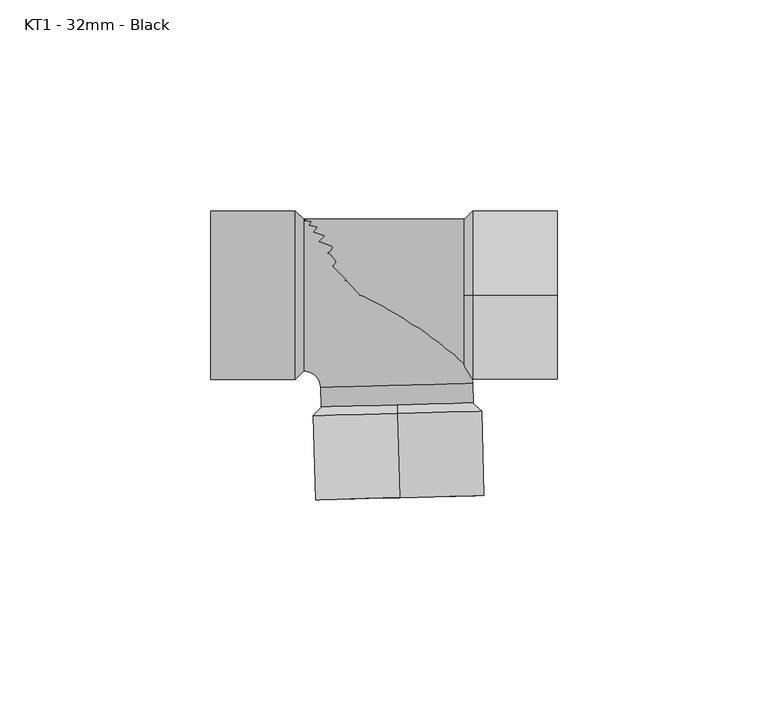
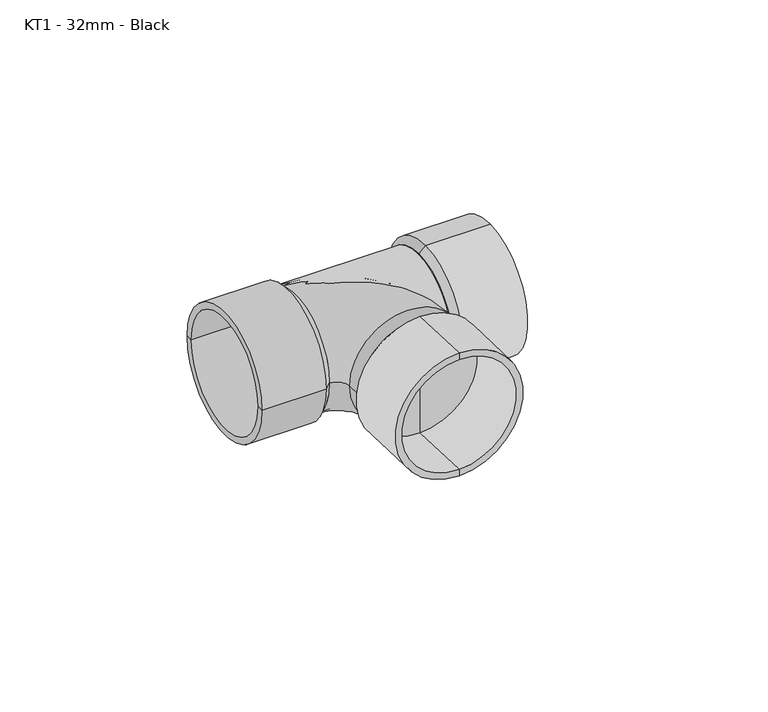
"""IFC4 building model written with IfcOpenShell, lengths in millimetres: pipe fitting geometry, MarleyPlumbingAndDrainage_PipeFitting_EqualBranchTee88.5 : KT1 - 32mm - Black."""

from ifc_helpers import new_model, si_unit, point, frame, origin, place, context, project, spatial, polyline, circle_curve, ellipse_curve, trimmed, source, transform, mapped, element, save
from ifc_brep_helpers import plane_surface, cylinder_surface, revolved_surface, advanced_brep


def kt1_32mm_black_348191cf(model_context):
    return source(origin(), model_context, "Body", "AdvancedBrep", [
        advanced_brep(
        [(38.5685488, 0.0, 18.0), (38.5685488, 0.0, -18.0), (38.5685488, 0.0, -20.0), (38.5685488, 0.0, 20.0), (18.5685488, 0.0, 18.0), (18.5685488, 0.0, -18.0), (18.5685488, 0.0, 0.0), (16.5685488, 0.0, 18.0), (16.5685488, 0.0, -18.0), (16.5685488, 0.0, 0.0), (18.5685488, 0.0, 20.0), (18.5685488, 0.0, -20.0)],
        [
            (0, 1, circle_curve(frame((38.5685488, 0.0, 0.0), z_axis=(-1.0, 0.0, 0.0), x_axis=(0.0, 0.0, -1.0)), 18.0)),
            (1, 2),
            (2, 3, circle_curve(frame((38.5685488, 0.0, 0.0), z_axis=(1.0, 0.0, 0.0), x_axis=(0.0, 0.0, -1.0)), 20.0)),
            (3, 0),
            (1, 0, circle_curve(frame((38.5685488, 0.0, 0.0), z_axis=(-1.0, 0.0, 0.0), x_axis=(0.0, 0.0, -1.0)), 18.0)),
            (3, 2, circle_curve(frame((38.5685488, 0.0, 0.0), z_axis=(1.0, 0.0, 0.0), x_axis=(0.0, 0.0, -1.0)), 20.0)),
            (4, 5, circle_curve(frame((18.5685488, 0.0, 0.0), z_axis=(-1.0, 0.0, 0.0), x_axis=(0.0, 0.0, -1.0)), 18.0)),
            (5, 1),
            (0, 4),
            (5, 4, circle_curve(frame((18.5685488, 0.0, 0.0), z_axis=(-1.0, 0.0, 0.0), x_axis=(0.0, 0.0, -1.0)), 18.0)),
            (6, 5),
            (4, 6),
            (7, 8, circle_curve(frame((16.5685488, 0.0, 0.0), z_axis=(-1.0, 0.0, 0.0), x_axis=(0.0, 0.0, -1.0)), 18.0)),
            (8, 9),
            (9, 7),
            (8, 7, circle_curve(frame((16.5685488, 0.0, 0.0), z_axis=(-1.0, 0.0, 0.0), x_axis=(0.0, 0.0, -1.0)), 18.0)),
            (10, 11, circle_curve(frame((18.5685488, 0.0, 0.0), z_axis=(-1.0, 0.0, 0.0), x_axis=(0.0, 0.0, -1.0)), 20.0)),
            (11, 8),
            (7, 10),
            (11, 10, circle_curve(frame((18.5685488, 0.0, 0.0), z_axis=(-1.0, 0.0, 0.0), x_axis=(0.0, 0.0, -1.0)), 20.0)),
            (2, 11),
            (10, 3),
        ],
        [
            plane_surface(frame((38.5685488, 0.0, 0.0), z_axis=(1.0, 0.0, 0.0), x_axis=(0.0, 0.0, -1.0))),
            revolved_surface(polyline([(38.5685488, 0.0, -18.0), (18.568548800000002, 0.0, -18.0)]), (76.5515888, 0.0, 0.0), (1.0, 0.0, 0.0)),
            plane_surface(frame((18.5685488, 0.0, 0.0), z_axis=(1.0, 0.0, 0.0), x_axis=(0.0, 0.0, -1.0))),
            plane_surface(frame((16.5685488, 0.0, 0.0), z_axis=(-1.0, 0.0, 0.0), x_axis=(0.0, 0.0, -1.0))),
            revolved_surface(polyline([(16.5685488, 0.0, -18.0), (18.5685488, 0.0, -20.0)]), (76.5515888, 0.0, 0.0), (1.0, 0.0, 0.0)),
            cylinder_surface(frame((76.5515888, 0.0, 0.0), z_axis=(1.0, 0.0, 0.0), x_axis=(0.0, 0.0, -1.0)), 20.0),
        ],
        [
            (0, [[1, 2, 3, 4]]),
            (0, [[5, -4, 6, -2]]),
            (1, [[7, 8, -1, 9]]),
            (1, [[10, -9, -5, -8]]),
            (2, [[11, -7, 12]]),
            (2, [[-12, -10, -11]]),
            (3, [[13, 14, 15]]),
            (3, [[16, -15, -14]]),
            (4, [[17, 18, -13, 19]]),
            (4, [[20, -19, -16, -18]]),
            (5, [[-3, 21, -17, 22]]),
            (5, [[-6, -22, -20, -21]]),
        ],
    ),
        advanced_brep(
        [(-43.4314512, -18.0, 0.0), (-43.4314512, 18.0, 0.0), (-43.4314512, 20.0, 0.0), (-43.4314512, -20.0, 0.0), (-23.4314512, -18.0, 0.0), (-23.4314512, 18.0, 0.0), (-23.4314512, 0.0, 0.0), (-21.4314512, -18.0, 0.0), (-21.4314512, 18.0, 0.0), (-21.4314512, 0.0, 0.0), (-23.4314512, -20.0, 0.0), (-23.4314512, 20.0, 0.0)],
        [
            (0, 1, circle_curve(frame((-43.4314512, 0.0, 0.0), z_axis=(1.0, 0.0, 0.0), x_axis=(0.0, 1.0, 0.0)), 18.0)),
            (1, 2),
            (2, 3, circle_curve(frame((-43.4314512, 0.0, 0.0), z_axis=(-1.0, 0.0, 0.0), x_axis=(0.0, 1.0, 0.0)), 20.0)),
            (3, 0),
            (1, 0, circle_curve(frame((-43.4314512, 0.0, 0.0), z_axis=(1.0, 0.0, 0.0), x_axis=(0.0, 1.0, 0.0)), 18.0)),
            (3, 2, circle_curve(frame((-43.4314512, 0.0, 0.0), z_axis=(-1.0, 0.0, 0.0), x_axis=(0.0, 1.0, 0.0)), 20.0)),
            (4, 5, circle_curve(frame((-23.4314512, 0.0, 0.0), z_axis=(1.0, 0.0, 0.0), x_axis=(0.0, 1.0, 0.0)), 18.0)),
            (5, 1),
            (0, 4),
            (5, 4, circle_curve(frame((-23.4314512, 0.0, 0.0), z_axis=(1.0, 0.0, 0.0), x_axis=(0.0, 1.0, 0.0)), 18.0)),
            (6, 5),
            (4, 6),
            (7, 8, circle_curve(frame((-21.4314512, 0.0, 0.0), z_axis=(1.0, 0.0, 0.0), x_axis=(0.0, 1.0, 0.0)), 18.0)),
            (8, 9),
            (9, 7),
            (8, 7, circle_curve(frame((-21.4314512, 0.0, 0.0), z_axis=(1.0, 0.0, 0.0), x_axis=(0.0, 1.0, 0.0)), 18.0)),
            (10, 11, circle_curve(frame((-23.4314512, 0.0, 0.0), z_axis=(1.0, 0.0, 0.0), x_axis=(0.0, 1.0, 0.0)), 20.0)),
            (11, 8),
            (7, 10),
            (11, 10, circle_curve(frame((-23.4314512, 0.0, 0.0), z_axis=(1.0, 0.0, 0.0), x_axis=(0.0, 1.0, 0.0)), 20.0)),
            (2, 11),
            (10, 3),
        ],
        [
            plane_surface(frame((-43.4314512, 0.0, 0.0), z_axis=(-1.0, 0.0, 0.0), x_axis=(0.0, 1.0, 0.0))),
            revolved_surface(polyline([(-43.4314512, 18.0, 0.0), (-23.431451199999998, 18.0, 0.0)]), (-81.4144911, 0.0, 0.0), (-1.0, 0.0, 0.0)),
            plane_surface(frame((-23.4314512, 0.0, 0.0), z_axis=(-1.0, 0.0, 0.0), x_axis=(0.0, 1.0, 0.0))),
            plane_surface(frame((-21.4314512, 0.0, 0.0), z_axis=(1.0, 0.0, 0.0), x_axis=(0.0, 1.0, 0.0))),
            revolved_surface(polyline([(-21.4314512, 18.0, 0.0), (-23.4314512, 20.0, 0.0)]), (-81.4144911, 0.0, 0.0), (-1.0, 0.0, 0.0)),
            cylinder_surface(frame((-81.4144911, 0.0, 0.0), z_axis=(-1.0, 0.0, 0.0), x_axis=(0.0, 1.0, 0.0)), 20.0),
        ],
        [
            (0, [[1, 2, 3, 4]]),
            (0, [[5, -4, 6, -2]]),
            (1, [[7, 8, -1, 9]]),
            (1, [[10, -9, -5, -8]]),
            (2, [[11, -7, 12]]),
            (2, [[-12, -10, -11]]),
            (3, [[13, 14, 15]]),
            (3, [[16, -15, -14]]),
            (4, [[17, 18, -13, 19]]),
            (4, [[20, -19, -16, -18]]),
            (5, [[-3, 21, -17, 22]]),
            (5, [[-6, -22, -20, -21]]),
        ],
    ),
        advanced_brep(
        [(1.2573168, -48.014992, -18.0), (1.2573168, -48.014992, 18.0), (1.2573168, -48.014992, 20.0), (1.2573168, -48.014992, -20.0), (0.7337778, -28.0218455, -18.0), (0.7337778, -28.0218455, 18.0), (0.7337778, -28.0218455, 0.0), (0.681424, -26.0225308, -18.0), (0.681424, -26.0225308, 18.0), (0.681424, -26.0225308, 0.0), (0.7337778, -28.0218455, -20.0), (0.7337778, -28.0218455, 20.0)],
        [
            (0, 1, circle_curve(frame((1.2573168, -48.014992, 0.0), z_axis=(-0.026176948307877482, 0.9996573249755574, 0.0), x_axis=(0.0, 0.0, 1.0)), 18.0)),
            (1, 2),
            (2, 3, circle_curve(frame((1.2573168, -48.014992, 0.0), z_axis=(0.026176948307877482, -0.9996573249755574, 0.0), x_axis=(0.0, 0.0, 1.0)), 20.0)),
            (3, 0),
            (1, 0, circle_curve(frame((1.2573168, -48.014992, 0.0), z_axis=(-0.026176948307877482, 0.9996573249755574, 0.0), x_axis=(0.0, 0.0, 1.0)), 18.0)),
            (3, 2, circle_curve(frame((1.2573168, -48.014992, 0.0), z_axis=(0.026176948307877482, -0.9996573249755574, 0.0), x_axis=(0.0, 0.0, 1.0)), 20.0)),
            (4, 5, circle_curve(frame((0.7337778, -28.0218455, 0.0), z_axis=(-0.026176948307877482, 0.9996573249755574, 0.0), x_axis=(0.0, 0.0, 1.0)), 18.0)),
            (5, 1),
            (0, 4),
            (5, 4, circle_curve(frame((0.7337778, -28.0218455, 0.0), z_axis=(-0.026176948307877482, 0.9996573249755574, 0.0), x_axis=(0.0, 0.0, 1.0)), 18.0)),
            (6, 5),
            (4, 6),
            (7, 8, circle_curve(frame((0.681424, -26.0225308, 0.0), z_axis=(-0.026176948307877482, 0.9996573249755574, 0.0), x_axis=(0.0, 0.0, 1.0)), 18.0)),
            (8, 9),
            (9, 7),
            (8, 7, circle_curve(frame((0.681424, -26.0225308, 0.0), z_axis=(-0.026176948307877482, 0.9996573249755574, 0.0), x_axis=(0.0, 0.0, 1.0)), 18.0)),
            (10, 11, circle_curve(frame((0.7337778, -28.0218455, 0.0), z_axis=(-0.026176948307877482, 0.9996573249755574, 0.0), x_axis=(0.0, 0.0, 1.0)), 20.0)),
            (11, 8),
            (7, 10),
            (11, 10, circle_curve(frame((0.7337778, -28.0218455, 0.0), z_axis=(-0.026176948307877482, 0.9996573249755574, 0.0), x_axis=(0.0, 0.0, 1.0)), 20.0)),
            (2, 11),
            (10, 3),
        ],
        [
            plane_surface(frame((1.2573168, -48.014992, 0.0), z_axis=(0.02617694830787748, -0.9996573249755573, 0.0), x_axis=(0.0, 0.0, 1.0))),
            revolved_surface(polyline([(1.25731682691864, -48.014991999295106, 18.0), (0.7337778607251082, -28.021845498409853, 18.0)]), (2.2515969, -85.9850161, 0.0), (0.026176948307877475, -0.9996573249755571, 0.0)),
            plane_surface(frame((0.7337778, -28.0218455, 0.0), z_axis=(0.02617694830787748, -0.9996573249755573, 0.0), x_axis=(0.0, 0.0, 1.0))),
            plane_surface(frame((0.681424, -26.0225308, 0.0), z_axis=(-0.02617694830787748, 0.9996573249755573, 0.0), x_axis=(0.0, 0.0, 1.0))),
            revolved_surface(polyline([(0.681424, -26.0225308, 18.0), (0.7337778, -28.0218455, 20.0)]), (2.2515969, -85.9850161, 0.0), (0.026176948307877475, -0.9996573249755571, 0.0)),
            cylinder_surface(frame((2.2515969, -85.9850161, 0.0), z_axis=(0.026176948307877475, -0.9996573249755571, 0.0), x_axis=(0.0, 0.0, 1.0)), 20.0),
        ],
        [
            (0, [[1, 2, 3, 4]]),
            (0, [[5, -4, 6, -2]]),
            (1, [[7, 8, -1, 9]]),
            (1, [[10, -9, -5, -8]]),
            (2, [[11, -7, 12]]),
            (2, [[-12, -10, -11]]),
            (3, [[13, 14, 15]]),
            (3, [[16, -15, -14]]),
            (4, [[17, 18, -13, 19]]),
            (4, [[20, -19, -16, -18]]),
            (5, [[-3, 21, -17, 22]]),
            (5, [[-6, -22, -20, -21]]),
        ],
    ),
        advanced_brep(
        [(-17.3124079, -26.4937159, 0.0), (18.6752558, -25.5513458, 0.0), (18.5548418, -20.9529221, 0.0), (-17.4328219, -21.8952922, 0.0), (-21.4314512, -18.0, 0.0), (-21.4314512, 18.0, 0.0)],
        [
            (0, 1, circle_curve(frame((0.681424, -26.0225308, 0.0), z_axis=(0.026176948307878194, -0.9996573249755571, 0.0), x_axis=(0.9996573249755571, 0.026176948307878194, 0.0)), 18.0)),
            (1, 0, circle_curve(frame((0.681424, -26.0225308, 0.0), z_axis=(0.026176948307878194, -0.9996573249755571, 0.0), x_axis=(0.9996573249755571, 0.026176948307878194, 0.0)), 18.0)),
            (2, 3, circle_curve(frame((0.56101, -21.4241071, 0.0), z_axis=(0.026176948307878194, -0.9996573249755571, 0.0), x_axis=(0.9996573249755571, 0.026176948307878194, 0.0)), 18.0)),
            (3, 0),
            (1, 2),
            (3, 2, circle_curve(frame((0.56101, -21.4241071, 0.0), z_axis=(0.026176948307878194, -0.9996573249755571, 0.0), x_axis=(0.9996573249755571, 0.026176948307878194, 0.0)), 18.0)),
            (4, 5, circle_curve(frame((-21.4314512, 0.0, 0.0), z_axis=(-1.0, 0.0, 0.0), x_axis=(0.0, 1.0, 0.0)), 18.0)),
            (5, 4, circle_curve(frame((-21.4314512, 0.0, 0.0), z_axis=(-1.0, 0.0, 0.0), x_axis=(0.0, 1.0, 0.0)), 18.0)),
            (2, 5, circle_curve(frame((-21.4314512, -22.0, 0.0), z_axis=(0.0, 0.0, 1.0), x_axis=(0.0, 1.0, 0.0)), 40.0)),
            (4, 3, circle_curve(frame((-21.4314512, -22.0, 0.0), z_axis=(0.0, 0.0, -1.0), x_axis=(0.0, 1.0, 0.0)), 4.0)),
        ],
        [
            plane_surface(frame((0.681424, -26.0225308, 0.0), z_axis=(0.026176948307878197, -0.9996573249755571, 0.0), x_axis=(0.0, 0.0, 1.0))),
            cylinder_surface(frame((0.56101, -21.4241071, 0.0), z_axis=(-0.026176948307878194, 0.9996573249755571, 0.0), x_axis=(0.9996573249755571, 0.026176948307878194, 0.0)), 18.0),
            plane_surface(frame((-21.4314512, 0.0, 0.0), z_axis=(-1.0, 0.0, 0.0), x_axis=(0.0, 0.0, 1.0))),
            revolved_surface(trimmed(ellipse_curve(frame((-21.4314512, 0.0, 0.0), z_axis=(-1.0, 0.0, 0.0), x_axis=(0.0, 1.0, 0.0)), 18.0, 18.0), [point((-21.4314512, -18.0, 0.0))], [point((-21.4314512, 18.0, 0.0))], True, "CARTESIAN"), (-21.4314512, -22.0, 0.0), (0.0, 0.0, -1.0)),
            revolved_surface(trimmed(ellipse_curve(frame((-21.4314512, 0.0, 0.0), z_axis=(-1.0, 0.0, 0.0), x_axis=(0.0, 1.0, 0.0)), 18.0, 18.0), [point((-21.4314512, 18.0, 0.0))], [point((-21.4314512, -18.0, 0.0))], True, "CARTESIAN"), (-21.4314512, -22.0, 0.0), (0.0, 0.0, -1.0)),
        ],
        [
            (0, [[1, 2]]),
            (1, [[3, 4, -2, 5]]),
            (1, [[6, -5, -1, -4]]),
            (2, [[7, 8]]),
            (3, [[9, -7, 10, -3]]),
            (4, [[-10, -8, -9, -6]]),
        ],
    ),
        advanced_brep(
        [(-21.4314512, 0.0, 0.0), (-21.4314512, 18.0, 0.0), (-21.4314512, -18.0, 0.0), (16.5685488, -18.0, 0.0), (16.5685488, 18.0, 0.0), (16.5685488, 0.0, 0.0)],
        [
            (0, 1),
            (1, 2, circle_curve(frame((-21.4314512, 0.0, 0.0), z_axis=(-1.0, 0.0, 0.0), x_axis=(0.0, 1.0, 0.0)), 18.0)),
            (2, 0),
            (2, 1, circle_curve(frame((-21.4314512, 0.0, 0.0), z_axis=(-1.0, 0.0, 0.0), x_axis=(0.0, 1.0, 0.0)), 18.0)),
            (3, 4, circle_curve(frame((16.5685488, 0.0, 0.0), z_axis=(1.0, 0.0, 0.0), x_axis=(0.0, 1.0, 0.0)), 18.0)),
            (4, 5),
            (5, 3),
            (4, 3, circle_curve(frame((16.5685488, 0.0, 0.0), z_axis=(1.0, 0.0, 0.0), x_axis=(0.0, 1.0, 0.0)), 18.0)),
            (1, 4),
            (3, 2),
        ],
        [
            plane_surface(frame((-21.4314512, 0.0, 0.0), z_axis=(-1.0, 0.0, 0.0), x_axis=(0.0, 1.0, 0.0))),
            plane_surface(frame((16.5685488, 0.0, 0.0), z_axis=(1.0, 0.0, 0.0), x_axis=(0.0, 1.0, 0.0))),
            cylinder_surface(frame((1993.5685488, 0.0, 0.0), z_axis=(-1.0, 0.0, 0.0), x_axis=(0.0, 1.0, 0.0)), 18.0),
        ],
        [
            (0, [[1, 2, 3]]),
            (0, [[-3, 4, -1]]),
            (1, [[5, 6, 7]]),
            (1, [[8, -7, -6]]),
            (2, [[-2, 9, -5, 10]]),
            (2, [[-4, -10, -8, -9]]),
        ],
    ),
    ])


if __name__ == "__main__":
    model = new_model("IFC4")
    model_context = context("Model", 3, world=origin())
    ifc_project = project(units=[si_unit("LENGTHUNIT", "METRE", prefix="MILLI")], contexts=[model_context])
    site = spatial("IfcSite", under=ifc_project)
    building = spatial("IfcBuilding", under=site)
    placement = place(None, origin())
    kt1_32mm_black_shape = kt1_32mm_black_348191cf(model_context)
    element("IfcPipeFitting", 1, ObjectType="MarleyPlumbingAndDrainage_PipeFitting_EqualBranchTee88.5 : KT1 - 32mm - Black", at=placement, inside=building, context=model_context, shape_type="MappedRepresentation", body=[
        mapped(kt1_32mm_black_shape, transform((0.0, 0.0, 0.0), x_axis=(1.0, 0.0, 0.0), y_axis=(0.0, 1.0, 0.0), z_axis=(0.0, 0.0, 1.0))),
    ])
    save(model, "model.ifc")
